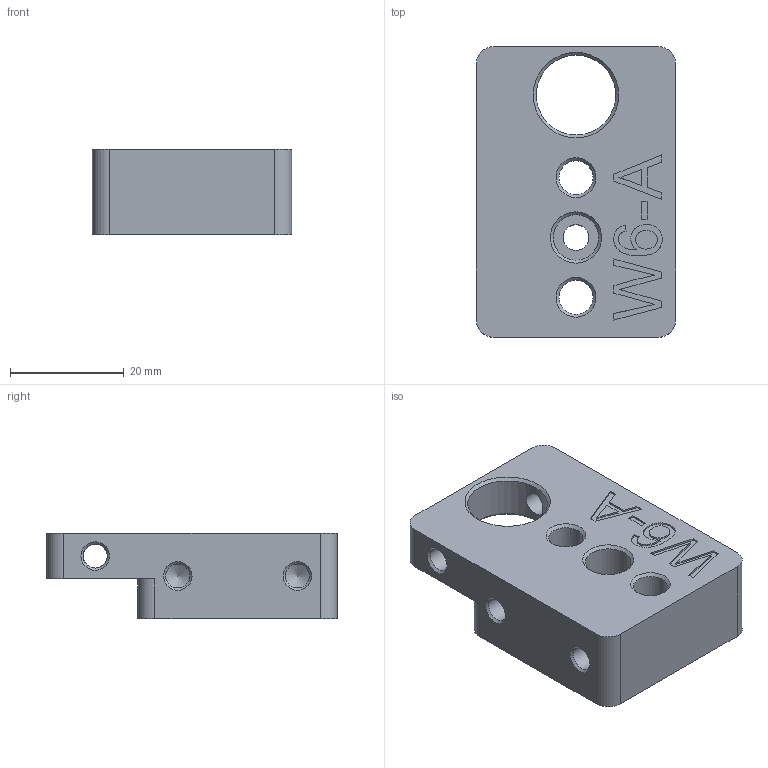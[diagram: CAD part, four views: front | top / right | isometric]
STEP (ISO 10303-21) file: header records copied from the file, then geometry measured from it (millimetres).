
FILE_DESCRIPTION(/* description */ (''),/* implementation_level */ '2;1');
FILE_NAME(/* name */ 'WHEELS-INSERT.01.stp',/* time_stamp */ '2018-10-17T13:32:21+02:00',/* author */ (''),/* organization */ (''),/* preprocessor_version */ 'ST-DEVELOPER v16.7',/* originating_system */ 'SIEMENS PLM Software NX 12.0',/* authorisation */ '');
FILE_SCHEMA (('AP203_CONFIGURATION_CONTROLLED_3D_DESIGN_OF_MECHANICAL_PARTS_AND_ASSEMBLIES_MIM_LF { 1 0 10303 403 2 1 2}'));
Length unit declared in the file: millimetre
Products named in the file (1): turc4ED01DE0qld7
Bounding box: 35 x 51 x 15 mm (x, y, z)
Volume: 19133.3 mm3; surface area: 7458.9 mm2
Topology: 1 solids, 1 shells, 84 faces, 232 edges, 155 vertices
Faces by surface type: plane 36, cone 18, cylinder 17, extrusion 13
Full cylindrical faces by diameter (mm): 4.2 x6, 4.5 x1, 6 x2, 8 x1, 14 x1
Entity records: 2928 total; most frequent: CARTESIAN_POINT 941, ORIENTED_EDGE 350, DIRECTION 332, EDGE_CURVE 175, VERTEX_POINT 132, EDGE_LOOP 131, AXIS2_PLACEMENT_3D 130, FACE_BOUND 87
